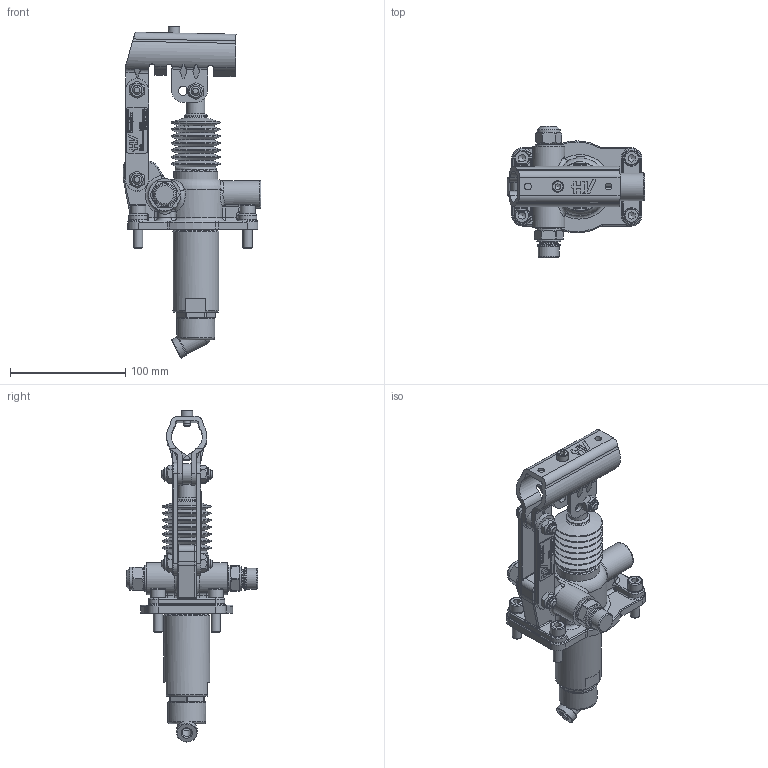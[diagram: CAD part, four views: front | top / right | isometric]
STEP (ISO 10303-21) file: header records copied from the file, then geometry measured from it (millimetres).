
FILE_DESCRIPTION((''),'2;1');
FILE_NAME('G:\HV_HYDRAULIC\AZIENDA_HV_HYDRAULIC\ARCHIVIO_DISEGNI\5_PRODOTTI_FINITI\1_POMPE_MANUALI\6052_PM_45\6052.0119_PM_45_byB-e-s_(HV)\6052.0119.stp','2024-02-28T14:09:26',('christian.scardovi'),(''),'Autodesk Inventor 2013','Autodesk Inventor 2013','');
FILE_SCHEMA(('AUTOMOTIVE_DESIGN { 1 0 10303 214 1 1 1 1 }'));
Length unit declared in the file: millimetre
Products named in the file (1): 6052.0119
Bounding box: 119.5 x 114 x 288.31 mm (x, y, z)
Surface area: 122931.4 mm2
Topology: 2 solids, 3 shells, 1393 faces, 3521 edges, 2225 vertices
Faces by surface type: plane 683, cylinder 279, bspline 190, cone 136, torus 89, sphere 16
Full cylindrical faces by diameter (mm): 5 x4, 6 x4, 6.5 x1, 8 x15, 9 x2, 9.2 x1, 10 x1, 10.376 x1, 11.05 x6, 12 x5, 13 x4, 13.2 x1, 14 x4, 14.95 x3, 16 x3, 16.6 x3, 17 x1, 18 x4, 20 x4, 21 x2, 21.6 x1, 22 x2, 23 x2, 24 x2, 26.5 x1, 27 x1, 28 x1, 29 x1, 30 x2, 32 x1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
Entity records: 43731 total; most frequent: CARTESIAN_POINT 11342, ORIENTED_EDGE 6484, DIRECTION 5883, EDGE_CURVE 3242, VERTEX_POINT 2156, AXIS2_PLACEMENT_3D 2053, VECTOR 1777, LINE 1777
